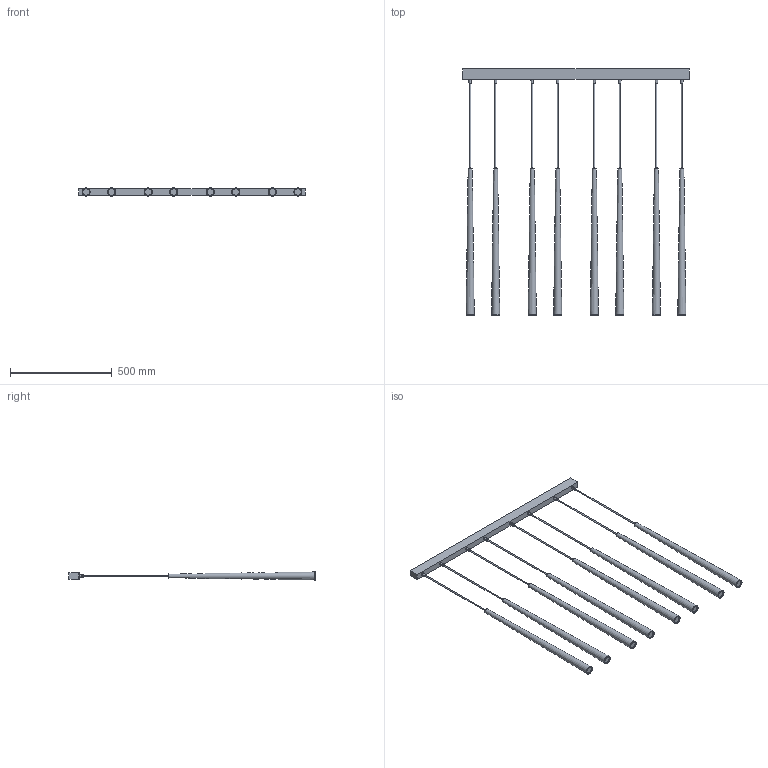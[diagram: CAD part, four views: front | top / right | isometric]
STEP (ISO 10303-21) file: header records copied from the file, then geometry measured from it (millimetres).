
FILE_DESCRIPTION(/* description */ (''),/* implementation_level */ '2;1');
FILE_NAME(/* name */ 'C:/Users/kubaw/OneDrive/Pulpit/Nowy folder (3)/6415_PIANO v3.step',/* time_stamp */ '2021-12-11T11:58:26+01:00',/* author */ (''),/* organization */ (''),/* preprocessor_version */ 'ST-DEVELOPER v18.1',/* originating_system */ 'Autodesk Translation Framework v10.10.0.1391',/* authorisation */ '');
FILE_SCHEMA (('AUTOMOTIVE_DESIGN { 1 0 10303 214 3 1 1 }'));
Length unit declared in the file: millimetre
Products named in the file (2): 6415_PIANO; PIANO_BAZA
Assembly tree (8 placements, depth 2):
  6415_PIANO
    PIANO_BAZA  x8
Bounding box: 1115 x 1210 x 39.97 mm (x, y, z)
Volume: 5962407 mm3; surface area: 821838.4 mm2
Topology: 41 solids, 41 shells, 232 faces, 370 edges, 244 vertices
Faces by surface type: plane 142, torus 32, cylinder 26, cone 24, bspline 8
Full cylindrical faces by diameter (mm): 6 x16, 37 x8
Entity records: 1017 total; most frequent: DIRECTION 182, CARTESIAN_POINT 175, ORIENTED_EDGE 124, AXIS2_PLACEMENT_3D 75, EDGE_CURVE 62, VERTEX_POINT 41, EDGE_LOOP 39, FACE_OUTER_BOUND 36
